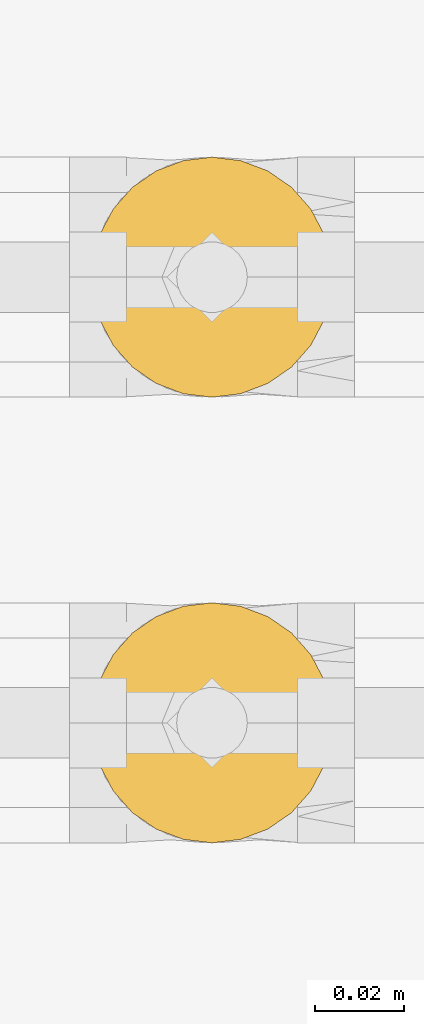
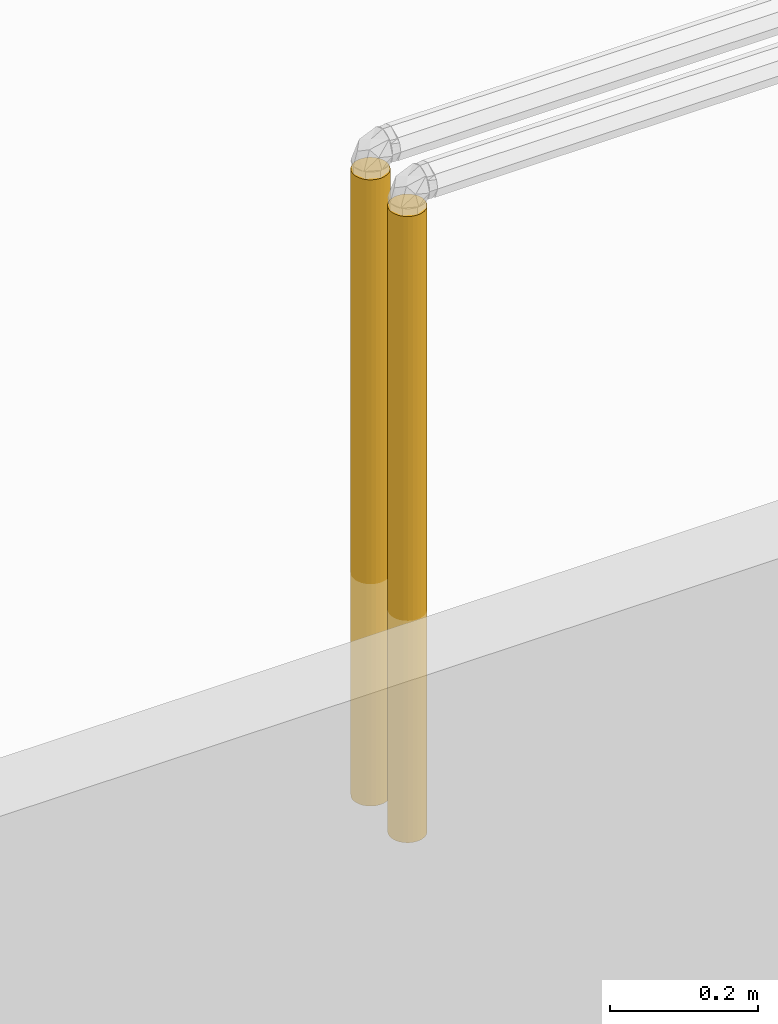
# One storey, part 41 of 652: 2 coverings.
"""IFC2X3 building model written with IfcOpenShell, lengths in millimetres."""

from ifc_helpers import new_model, entity, si_unit, converted_unit, direction, frame, origin, origin_2d_with_axis, place, context, subcontext, project, spatial, circle, extrude, material, type_object, element, save


model = new_model("IFC2X3")

# Units and contexts
model_context = context("Model", 3, precision=0.01, world=frame((0.0, 0.0, 308426.39999999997)), true_north=direction((6.123233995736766e-17, 1.0)))
plan_context = context("Plan", 3, precision=0.01, world=frame((0.0, 0.0, 308426.39999999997)), true_north=direction((6.123233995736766e-17, 1.0)))
body_context = subcontext(model_context, "Body", "Model", "MODEL_VIEW")
ifc_project = project(units=[si_unit("LENGTHUNIT", "METRE", prefix="MILLI"), si_unit("AREAUNIT", "SQUARE_METRE"), si_unit("VOLUMEUNIT", "CUBIC_METRE"), converted_unit("PLANEANGLEUNIT", "DEGREE", entity("IfcPlaneAngleMeasure", 0.017453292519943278), si_unit("PLANEANGLEUNIT", "RADIAN"), dimensions=[0, 0, 0, 0, 0, 0, 0])], contexts=[model_context, plan_context])

# Site, building, storey
site_placement = place(None, origin())
site = spatial("IfcSite", under=ifc_project, at=site_placement, Name="Default", CompositionType="ELEMENT")
building_placement = place(site_placement, origin())
building = spatial("IfcBuilding", under=site, at=building_placement, CompositionType="ELEMENT")
storey_placement = place(building_placement, frame((0.0, 0.0, 1730.6999999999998)))
storey = spatial("IfcBuildingStorey", under=building, at=storey_placement, Name="EG_Produktion_FFB", CompositionType="ELEMENT", Elevation=1730.6999999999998)

# Coverings
ifc_material = material(Name="Dämmung - Armaflex-Schlauch")
covering_type = type_object("IfcCoveringType", Name="Rohrdämmung außen:Armaflex-Schlauch", PredefinedType="INSULATION")
covering_1_placement = place(storey_placement, origin())
element("IfcCovering", 1, at=covering_1_placement, inside=storey, type_object=covering_type, material=ifc_material, Name="Rohrdämmung außen:Armaflex-Schlauch", ObjectType="Rohrdämmung außen:Armaflex-Schlauch", PredefinedType="INSULATION", context=body_context, shape_type="SweptSolid", body=[
    extrude(circle(Radius=26.9375, at=origin_2d_with_axis()), frame((22764.362183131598, 36482.03655774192, 2731.9837499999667), z_axis=(0.0, 0.0, 1.0), x_axis=(0.0, 1.0, 0.0)), (0.0, 0.0, 1.0), 1036.0325000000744),
])
covering_2_placement = place(storey_placement, origin())
element("IfcCovering", 2, at=covering_2_placement, inside=storey, type_object=covering_type, material=ifc_material, Name="Rohrdämmung außen:Armaflex-Schlauch", ObjectType="Rohrdämmung außen:Armaflex-Schlauch", PredefinedType="INSULATION", context=body_context, shape_type="SweptSolid", body=[
    extrude(circle(Radius=26.9375, at=origin_2d_with_axis()), frame((22764.362183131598, 36582.036557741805, 2731.983749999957), z_axis=(0.0, 0.0, 1.0), x_axis=(0.0, 1.0, 0.0)), (0.0, 0.0, 1.0), 1036.0325000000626),
])

save(model, "model.ifc")
